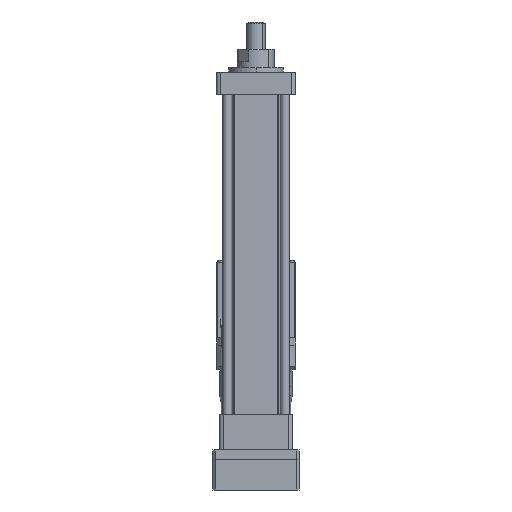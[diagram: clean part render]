
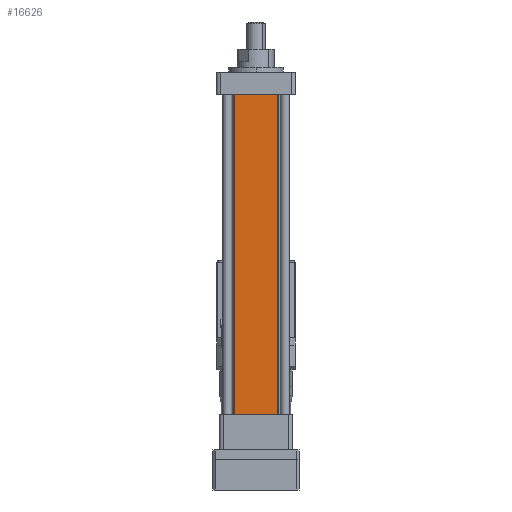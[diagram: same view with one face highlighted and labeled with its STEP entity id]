
A CAD part, front view. The second image highlights one B-rep face of the part: STEP entity #16626.
In plain terms, the highlighted planar face has unit normal (0, -1, 0).
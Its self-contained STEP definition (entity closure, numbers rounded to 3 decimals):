
#1157 = ORIENTED_EDGE ( 'NONE', *, *, #18059, .F. ) ;
#3387 = ORIENTED_EDGE ( 'NONE', *, *, #39946, .T. ) ;
#3659 = DIRECTION ( 'NONE',  ( 0., 1., 0. ) ) ;
#6403 = VECTOR ( 'NONE', #34346, 1000. ) ;
#6995 = DIRECTION ( 'NONE',  ( 1., 0., 0. ) ) ;
#7164 = DIRECTION ( 'NONE',  ( 0., 0., 1. ) ) ;
#8423 = VERTEX_POINT ( 'NONE', #15267 ) ;
#9796 = CARTESIAN_POINT ( 'NONE',  ( 20837.282, 4221.489, 528. ) ) ;
#12289 = ORIENTED_EDGE ( 'NONE', *, *, #41243, .F. ) ;
#15267 = CARTESIAN_POINT ( 'NONE',  ( 20837.282, 4221.489, 528. ) ) ;
#16448 = AXIS2_PLACEMENT_3D ( 'NONE', #49054, #3659, #7164 ) ;
#16626 = ADVANCED_FACE ( 'NONE', ( #45280 ), #22186, .F. ) ;
#17557 = LINE ( 'NONE', #9796, #43782 ) ;
#18059 = EDGE_CURVE ( 'NONE', #8423, #27786, #17557, .T. ) ;
#19061 = CARTESIAN_POINT ( 'NONE',  ( 20908.834, 4221.489, 481. ) ) ;
#21210 = VERTEX_POINT ( 'NONE', #34197 ) ;
#22186 = PLANE ( 'NONE',  #16448 ) ;
#23101 = VECTOR ( 'NONE', #6995, 1000. ) ;
#25550 = LINE ( 'NONE', #27270, #33693 ) ;
#27270 = CARTESIAN_POINT ( 'NONE',  ( 20837.282, 4221.489, 481. ) ) ;
#27786 = VERTEX_POINT ( 'NONE', #45860 ) ;
#28397 = EDGE_CURVE ( 'NONE', #29032, #8423, #25550, .T. ) ;
#28819 = DIRECTION ( 'NONE',  ( 1., 0., 0. ) ) ;
#29032 = VERTEX_POINT ( 'NONE', #47769 ) ;
#32326 = EDGE_LOOP ( 'NONE', ( #12289, #1157, #46934, #3387 ) ) ;
#33693 = VECTOR ( 'NONE', #42113, 1000. ) ;
#34197 = CARTESIAN_POINT ( 'NONE',  ( 20908.834, 4221.489, 0. ) ) ;
#34346 = DIRECTION ( 'NONE',  ( 0., 0., -1. ) ) ;
#34530 = LINE ( 'NONE', #41337, #23101 ) ;
#39946 = EDGE_CURVE ( 'NONE', #29032, #21210, #34530, .T. ) ;
#41243 = EDGE_CURVE ( 'NONE', #27786, #21210, #45175, .T. ) ;
#41337 = CARTESIAN_POINT ( 'NONE',  ( 0., 4221.489, 0. ) ) ;
#42113 = DIRECTION ( 'NONE',  ( 0., 0., 1. ) ) ;
#43782 = VECTOR ( 'NONE', #28819, 1000. ) ;
#45175 = LINE ( 'NONE', #19061, #6403 ) ;
#45280 = FACE_OUTER_BOUND ( 'NONE', #32326, .T. ) ;
#45860 = CARTESIAN_POINT ( 'NONE',  ( 20908.834, 4221.489, 528. ) ) ;
#46934 = ORIENTED_EDGE ( 'NONE', *, *, #28397, .F. ) ;
#47769 = CARTESIAN_POINT ( 'NONE',  ( 20837.282, 4221.489, 0. ) ) ;
#49054 = CARTESIAN_POINT ( 'NONE',  ( 0., 4221.489, 481. ) ) ;
